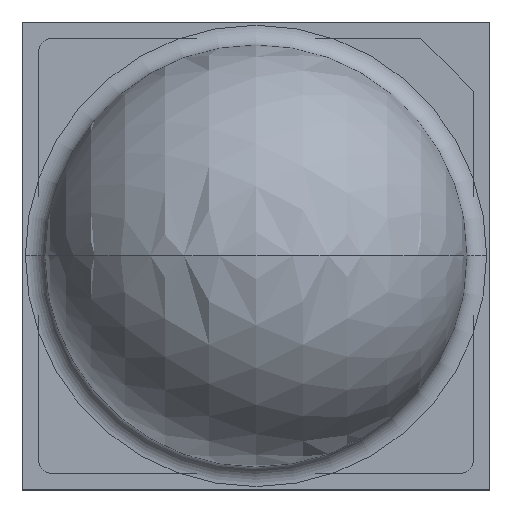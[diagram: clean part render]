
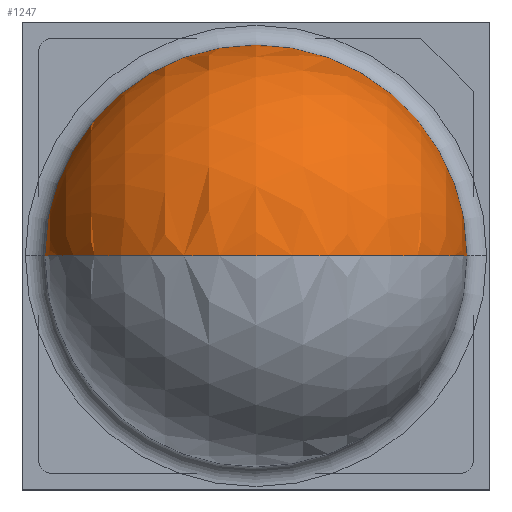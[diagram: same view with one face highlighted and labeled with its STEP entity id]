
A CAD part, top view. The second image highlights one B-rep face of the part: STEP entity #1247.
In plain terms, the highlighted spherical face has radius 1.6 mm.
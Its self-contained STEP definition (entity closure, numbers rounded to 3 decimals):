
#1247=ADVANCED_FACE('',(#1681),#1682,.T.);
#1681=FACE_OUTER_BOUND('',#2332,.T.);
#1682=SPHERICAL_SURFACE('',#2333,1.6);
#2332=EDGE_LOOP('',(#3685,#3686,#3687));
#2333=AXIS2_PLACEMENT_3D('',#3688,#3689,#3690);
#3685=ORIENTED_EDGE('',*,*,#5211,.T.);
#3686=ORIENTED_EDGE('',*,*,#5212,.T.);
#3687=ORIENTED_EDGE('',*,*,#5213,.F.);
#3688=CARTESIAN_POINT('',(0.,0.,0.05));
#3689=DIRECTION('',(1.0,0.0,0.));
#3690=DIRECTION('',(0.,-0.707,0.707));
#5211=EDGE_CURVE('',#6713,#6714,#6715,.T.);
#5212=EDGE_CURVE('',#6714,#6716,#6717,.T.);
#5213=EDGE_CURVE('',#6713,#6716,#6718,.T.);
#6713=VERTEX_POINT('',#8765);
#6714=VERTEX_POINT('',#8766);
#6715=CIRCLE('',#8767,1.6);
#6716=VERTEX_POINT('',#8768);
#6717=CIRCLE('',#8769,1.6);
#6718=CIRCLE('',#8770,1.6);
#8765=CARTESIAN_POINT('',(1.6,0.,0.05));
#8766=CARTESIAN_POINT('',(-1.6,0.,0.05));
#8767=AXIS2_PLACEMENT_3D('',#10621,#10622,#10623);
#8768=CARTESIAN_POINT('',(0.0,0.,1.65));
#8769=AXIS2_PLACEMENT_3D('',#10624,#10625,#10626);
#8770=AXIS2_PLACEMENT_3D('',#10627,#10628,#10629);
#10621=CARTESIAN_POINT('',(0.,0.,0.05));
#10622=DIRECTION('',(0.,0.,1.0));
#10623=DIRECTION('',(1.0,0.,0.));
#10624=CARTESIAN_POINT('',(0.,0.,0.05));
#10625=DIRECTION('',(0.,1.0,0.));
#10626=DIRECTION('',(-1.0,0.,0.));
#10627=CARTESIAN_POINT('',(0.,0.,0.05));
#10628=DIRECTION('',(0.,-1.0,0.));
#10629=DIRECTION('',(1.0,0.,0.));
